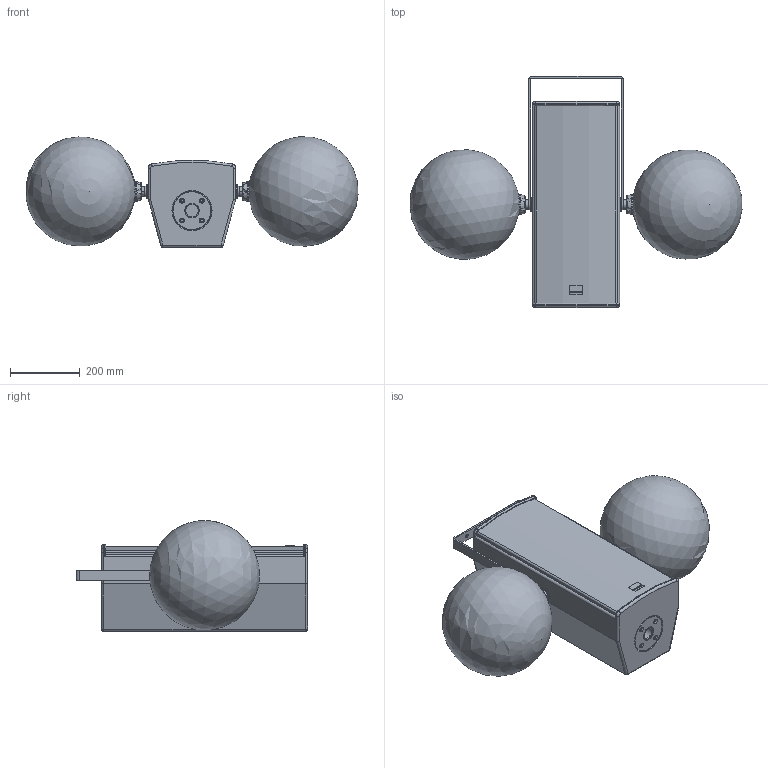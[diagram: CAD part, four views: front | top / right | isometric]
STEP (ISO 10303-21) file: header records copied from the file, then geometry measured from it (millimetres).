
FILE_DESCRIPTION (( 'STEP AP203' ), '1' );
FILE_NAME ('SEEBURG_A3_Bracket-ver.STEP', '2012-09-27T13:38:22', ( 'Fabian' ), ( '' ), 'SwSTEP 2.0', 'SolidWorks 2009', '' );
FILE_SCHEMA (( 'CONFIG_CONTROL_DESIGN' ));
Length unit declared in the file: millimetre
Products named in the file (2): A3_Bracket-ver; SEEBURG_A3_Bracket-ver
Assembly tree (1 placements, depth 2):
  SEEBURG_A3_Bracket-ver
    A3_Bracket-ver
Bounding box: 951.02 x 662 x 316.89 mm (x, y, z)
Volume: 43483292.4 mm3; surface area: 2267087.5 mm2
Topology: 23 solids, 23 shells, 541 faces, 1317 edges, 839 vertices
Faces by surface type: cylinder 214, plane 167, cone 78, torus 62, sphere 14, bspline 6
Entity records: 18084 total; most frequent: CARTESIAN_POINT 4948, DIRECTION 2880, ORIENTED_EDGE 2606, EDGE_CURVE 1303, AXIS2_PLACEMENT_3D 1150, VERTEX_POINT 831, CIRCLE 611, EDGE_LOOP 610
